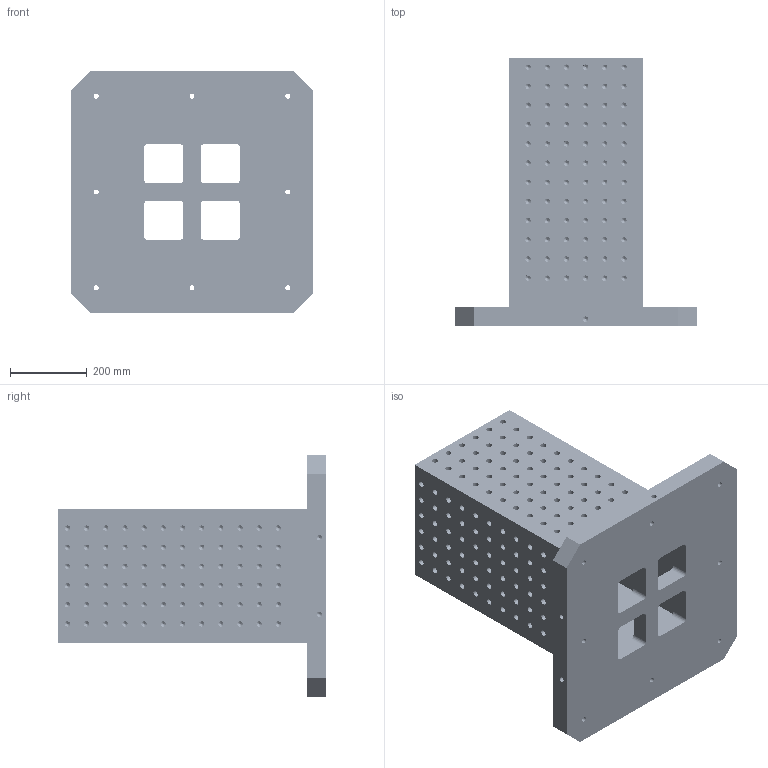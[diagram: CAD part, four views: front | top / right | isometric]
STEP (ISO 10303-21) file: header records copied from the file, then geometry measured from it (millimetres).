
FILE_DESCRIPTION((''),'2;1');
FILE_NAME('FG_WH_TOMB_SQG16NP005','2026-05-19T15:16:02',('Admin'),(''),'CREO PARAMETRIC BY PTC INC, 2025010','CREO PARAMETRIC BY PTC INC, 2025010','');
FILE_SCHEMA(('CONFIG_CONTROL_DESIGN'));
Products named in the file (1): FG_WH_TOMB_SQG16NP005
Bounding box: 630 x 700 x 630 mm (x, y, z)
Volume: 51495615.9 mm3; surface area: 3541584.9 mm2
Topology: 1 solids, 292 shells, 3051 faces, 7656 edges, 4909 vertices
Faces by surface type: cylinder 1806, plane 663, cone 582
Entity records: 88960 total; most frequent: DIRECTION 17660, CARTESIAN_POINT 15035, ORIENTED_EDGE 12696, AXIS2_PLACEMENT_3D 7534, EDGE_CURVE 7074, VERTEX_POINT 4909, CIRCLE 4482, EDGE_LOOP 3971
